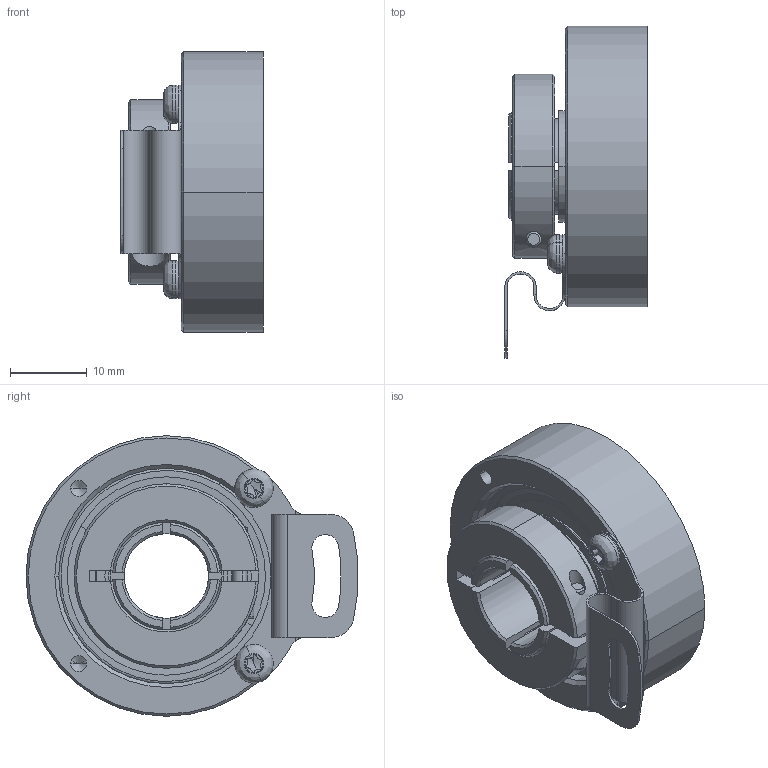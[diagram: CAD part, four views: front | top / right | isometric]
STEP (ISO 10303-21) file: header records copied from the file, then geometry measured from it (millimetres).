
FILE_DESCRIPTION (( 'STEP AP214' ), '1' );
FILE_NAME ('drawing-ucd-vbt0-q3a-n.STEP', '2017-01-19T16:27:50', ( '' ), ( '' ), 'SwSTEP 2.0', 'SolidWorks 2015', '' );
FILE_SCHEMA (( 'AUTOMOTIVE_DESIGN' ));
Length unit declared in the file: millimetre
Products named in the file (1): drawing-ucd-vbt0-q3a-n
Bounding box: 18.5 x 43.18 x 36.5 mm (x, y, z)
Volume: 9518.8 mm3; surface area: 12701.2 mm2
Topology: 24 solids, 24 shells, 417 faces, 1021 edges, 604 vertices
Faces by surface type: cylinder 137, cone 104, plane 92, bspline 80, torus 4
Entity records: 18920 total; most frequent: CARTESIAN_POINT 4726, DIRECTION 2016, ORIENTED_EDGE 1910, EDGE_CURVE 955, AXIS2_PLACEMENT_3D 852, VERTEX_POINT 604, CIRCLE 514, EDGE_LOOP 463
